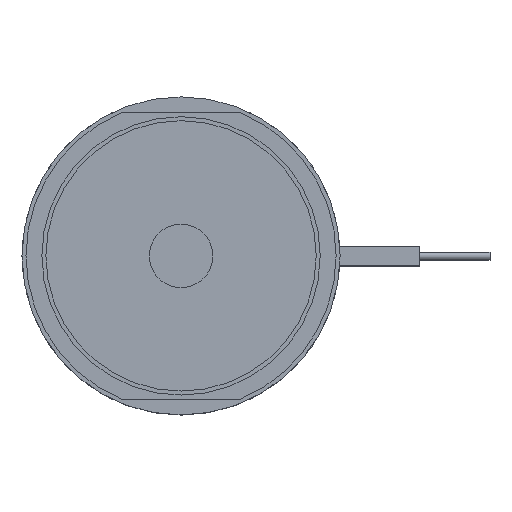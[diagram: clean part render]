
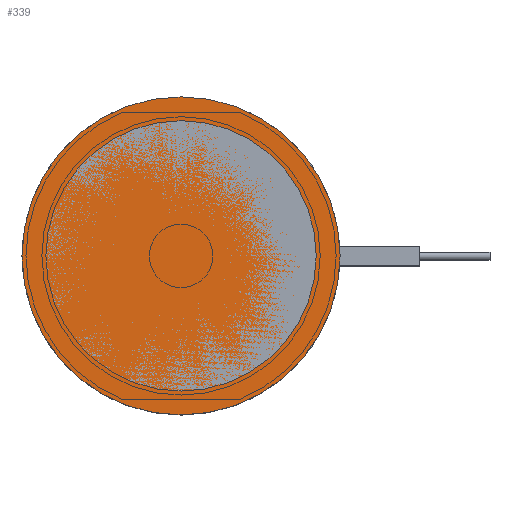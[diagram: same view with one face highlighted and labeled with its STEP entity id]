
A CAD part, top view. The second image highlights one B-rep face of the part: STEP entity #339.
In plain terms, the highlighted planar face has unit normal (0, 0, 1).
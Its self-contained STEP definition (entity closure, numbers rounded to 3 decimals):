
#339=ADVANCED_FACE('',(#446),#406,.F.);
#406=PLANE('',#1188);
#446=FACE_OUTER_BOUND('',#535,.T.);
#535=EDGE_LOOP('',(#681));
#681=ORIENTED_EDGE('',*,*,#981,.F.);
#882=VERTEX_POINT('',#1750);
#981=EDGE_CURVE('',#882,#882,#1087,.T.);
#1087=CIRCLE('',#1187,20.);
#1187=AXIS2_PLACEMENT_3D('',#1749,#1403,#1404);
#1188=AXIS2_PLACEMENT_3D('',#1751,#1405,#1406);
#1403=DIRECTION('',(0.,0.,-1.));
#1404=DIRECTION('',(-1.,0.,0.));
#1405=DIRECTION('',(0.,0.,-1.));
#1406=DIRECTION('',(-1.,0.,0.));
#1749=CARTESIAN_POINT('',(0.,0.,0.));
#1750=CARTESIAN_POINT('',(-20.,0.,0.));
#1751=CARTESIAN_POINT('',(0.,0.,0.));
